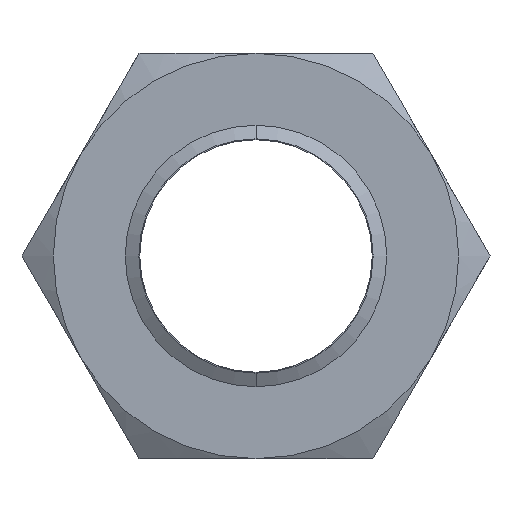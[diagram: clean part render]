
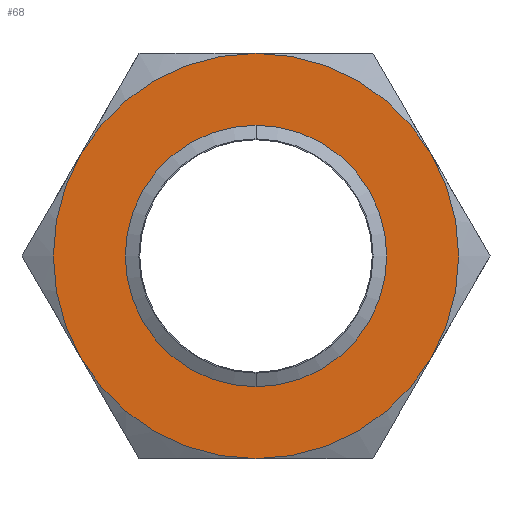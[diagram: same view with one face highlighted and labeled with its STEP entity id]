
A CAD part, front view. The second image highlights one B-rep face of the part: STEP entity #68.
In plain terms, the highlighted planar face has unit normal (0, -1, 0).
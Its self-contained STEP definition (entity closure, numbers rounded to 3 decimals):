
#12 = VERTEX_POINT ( 'NONE', #248 ) ;
#35 = VERTEX_POINT ( 'NONE', #317 ) ;
#38 = VERTEX_POINT ( 'NONE', #316 ) ;
#56 = EDGE_LOOP ( 'NONE', ( #72, #71, #81, #82, #2250, #2118 ) ) ;
#67 = EDGE_CURVE ( 'NONE', #35, #38, #330, .T. ) ;
#68 = ADVANCED_FACE ( 'NONE', ( #390, #389 ), #388, .F. ) ;
#70 = EDGE_CURVE ( 'NONE', #12, #35, #386, .T. ) ;
#71 = ORIENTED_EDGE ( 'NONE', *, *, #70, .F. ) ;
#72 = ORIENTED_EDGE ( 'NONE', *, *, #67, .F. ) ;
#78 = VERTEX_POINT ( 'NONE', #373 ) ;
#79 = EDGE_CURVE ( 'NONE', #80, #12, #372, .T. ) ;
#80 = VERTEX_POINT ( 'NONE', #367 ) ;
#81 = ORIENTED_EDGE ( 'NONE', *, *, #79, .F. ) ;
#82 = ORIENTED_EDGE ( 'NONE', *, *, #84, .F. ) ;
#84 = EDGE_CURVE ( 'NONE', #78, #80, #365, .T. ) ;
#155 = VERTEX_POINT ( 'NONE', #593 ) ;
#156 = VERTEX_POINT ( 'NONE', #592 ) ;
#234 = EDGE_CURVE ( 'NONE', #155, #156, #2350, .T. ) ;
#248 = CARTESIAN_POINT ( 'NONE',  ( -67.117, 0., 38.75 ) ) ;
#316 = CARTESIAN_POINT ( 'NONE',  ( 67.117, 0., 38.75 ) ) ;
#317 = CARTESIAN_POINT ( 'NONE',  ( 0., 0., 77.5 ) ) ;
#327 = DIRECTION ( 'NONE',  ( 0., 1., 0. ) ) ;
#328 = CARTESIAN_POINT ( 'NONE',  ( 0., 0., 0. ) ) ;
#329 = AXIS2_PLACEMENT_3D ( 'NONE', #328, #327, #391 ) ;
#330 = CIRCLE ( 'NONE', #329, 77.5 ) ;
#361 = DIRECTION ( 'NONE',  ( 0., 0., 1. ) ) ;
#362 = DIRECTION ( 'NONE',  ( 0., 1., 0. ) ) ;
#363 = CARTESIAN_POINT ( 'NONE',  ( 0., 0., 0. ) ) ;
#364 = AXIS2_PLACEMENT_3D ( 'NONE', #363, #362, #361 ) ;
#365 = CIRCLE ( 'NONE', #364, 77.5 ) ;
#367 = CARTESIAN_POINT ( 'NONE',  ( -67.117, 0., -38.75 ) ) ;
#368 = DIRECTION ( 'NONE',  ( 0., 0., 1. ) ) ;
#369 = DIRECTION ( 'NONE',  ( 0., 1., 0. ) ) ;
#370 = CARTESIAN_POINT ( 'NONE',  ( 0., 0., 0. ) ) ;
#371 = AXIS2_PLACEMENT_3D ( 'NONE', #370, #369, #368 ) ;
#372 = CIRCLE ( 'NONE', #371, 77.5 ) ;
#373 = CARTESIAN_POINT ( 'NONE',  ( 0., 0., -77.5 ) ) ;
#379 = DIRECTION ( 'NONE',  ( 0., 0., 1. ) ) ;
#380 = DIRECTION ( 'NONE',  ( 0., 1., 0. ) ) ;
#381 = CARTESIAN_POINT ( 'NONE',  ( 0., 0., 0. ) ) ;
#382 = AXIS2_PLACEMENT_3D ( 'NONE', #381, #380, #379 ) ;
#383 = DIRECTION ( 'NONE',  ( 0., 0., 1. ) ) ;
#384 = DIRECTION ( 'NONE',  ( 0., 1., 0. ) ) ;
#385 = CARTESIAN_POINT ( 'NONE',  ( 44.745, 0., -77.5 ) ) ;
#386 = CIRCLE ( 'NONE', #382, 77.5 ) ;
#387 = AXIS2_PLACEMENT_3D ( 'NONE', #385, #384, #383 ) ;
#388 = PLANE ( 'NONE',  #387 ) ;
#389 = FACE_BOUND ( 'NONE', #2219, .T. ) ;
#390 = FACE_OUTER_BOUND ( 'NONE', #56, .T. ) ;
#391 = DIRECTION ( 'NONE',  ( 0., 0., 1. ) ) ;
#592 = CARTESIAN_POINT ( 'NONE',  ( 0., 0., 44.804 ) ) ;
#593 = CARTESIAN_POINT ( 'NONE',  ( 0., 0., -44.804 ) ) ;
#1039 = DIRECTION ( 'NONE',  ( 0., 0., 1. ) ) ;
#1040 = DIRECTION ( 'NONE',  ( 0., 1., 0. ) ) ;
#1041 = CARTESIAN_POINT ( 'NONE',  ( 0., 0., 0. ) ) ;
#1042 = AXIS2_PLACEMENT_3D ( 'NONE', #1041, #1040, #1039 ) ;
#1043 = CIRCLE ( 'NONE', #1042, 77.5 ) ;
#1382 = DIRECTION ( 'NONE',  ( 0., 0., -1. ) ) ;
#1383 = DIRECTION ( 'NONE',  ( 0., -1., 0. ) ) ;
#1384 = CARTESIAN_POINT ( 'NONE',  ( 0., 0., 0. ) ) ;
#1385 = AXIS2_PLACEMENT_3D ( 'NONE', #1384, #1383, #1382 ) ;
#1386 = CIRCLE ( 'NONE', #1385, 44.804 ) ;
#1396 = CARTESIAN_POINT ( 'NONE',  ( 0., 0., 0. ) ) ;
#1403 = CARTESIAN_POINT ( 'NONE',  ( 67.117, 0., -38.75 ) ) ;
#1454 = DIRECTION ( 'NONE',  ( 0., 0., 1. ) ) ;
#1455 = DIRECTION ( 'NONE',  ( 0., 1., 0. ) ) ;
#1456 = AXIS2_PLACEMENT_3D ( 'NONE', #1396, #1455, #1454 ) ;
#1457 = CIRCLE ( 'NONE', #1456, 77.5 ) ;
#2021 = EDGE_CURVE ( 'NONE', #38, #2243, #1043, .T. ) ;
#2118 = ORIENTED_EDGE ( 'NONE', *, *, #2021, .F. ) ;
#2129 = ORIENTED_EDGE ( 'NONE', *, *, #234, .F. ) ;
#2144 = ORIENTED_EDGE ( 'NONE', *, *, #2214, .F. ) ;
#2214 = EDGE_CURVE ( 'NONE', #156, #155, #1386, .T. ) ;
#2219 = EDGE_LOOP ( 'NONE', ( #2129, #2144 ) ) ;
#2243 = VERTEX_POINT ( 'NONE', #1403 ) ;
#2249 = EDGE_CURVE ( 'NONE', #2243, #78, #1457, .T. ) ;
#2250 = ORIENTED_EDGE ( 'NONE', *, *, #2249, .F. ) ;
#2348 = DIRECTION ( 'NONE',  ( 0., 0., -1. ) ) ;
#2349 = CARTESIAN_POINT ( 'NONE',  ( 0., 0., 0. ) ) ;
#2350 = CIRCLE ( 'NONE', #2352, 44.804 ) ;
#2351 = DIRECTION ( 'NONE',  ( 0., -1., 0. ) ) ;
#2352 = AXIS2_PLACEMENT_3D ( 'NONE', #2349, #2351, #2348 ) ;
